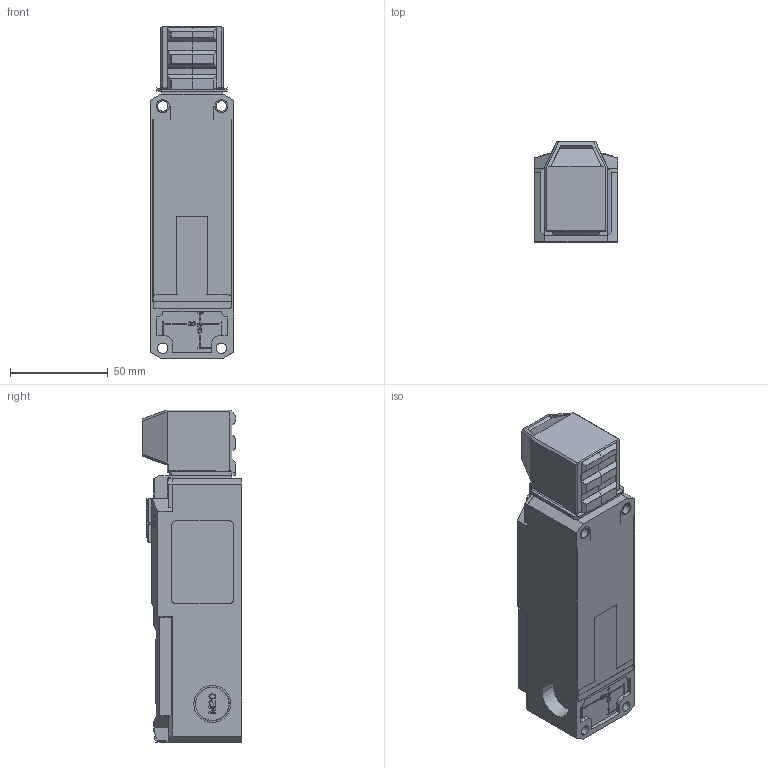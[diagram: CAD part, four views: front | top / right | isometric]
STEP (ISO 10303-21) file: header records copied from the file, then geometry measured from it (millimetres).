
FILE_DESCRIPTION((''),'2;1');
FILE_NAME('6018169050','2025-01-10T07:01:09',('markus.finger'),(''),'CREO PARAMETRIC BY PTC INC, 2022124','CREO PARAMETRIC BY PTC INC, 2022124','');
FILE_SCHEMA(('AUTOMOTIVE_DESIGN { 1 0 10303 214 1 1 1 1 }'));
Products named in the file (1): 6018169050
Bounding box: 42.6 x 51.2 x 170 mm (x, y, z)
Volume: 129617.2 mm3; surface area: 95023.1 mm2
Topology: 6 solids, 6 shells, 2963 faces, 8171 edges, 5187 vertices
Faces by surface type: plane 2126, cylinder 549, cone 88, sphere 70, torus 67, bspline 62, extrusion 1
Entity records: 149876 total; most frequent: CARTESIAN_POINT 26603, ORIENTED_EDGE 16286, DIRECTION 14980, PRESENTATION_STYLE_ASSIGNMENT 11117, STYLED_ITEM 8154, CURVE_STYLE 8148, EDGE_CURVE 8143, VECTOR 6239
